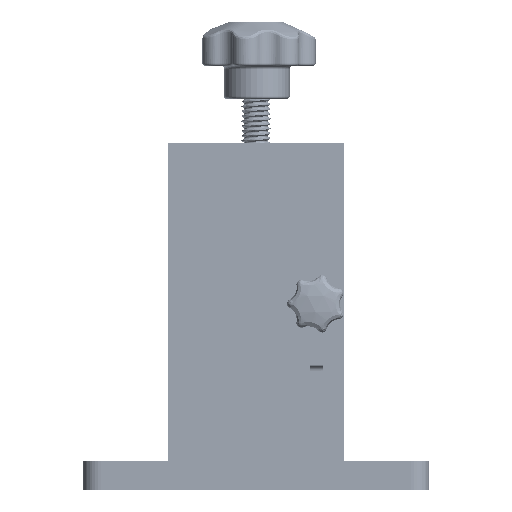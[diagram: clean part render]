
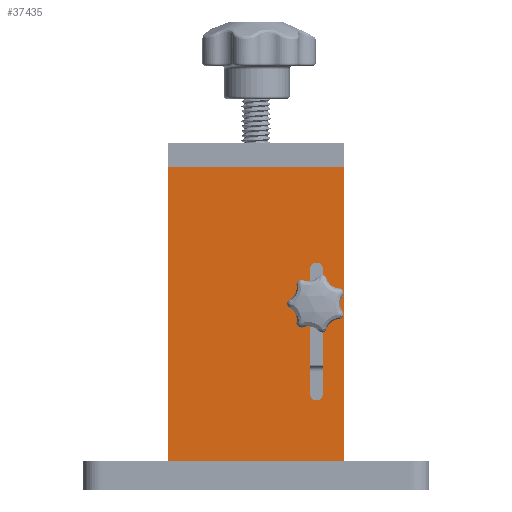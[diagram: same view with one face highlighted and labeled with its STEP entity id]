
A CAD part, left-side view. The second image highlights one B-rep face of the part: STEP entity #37435.
In plain terms, the highlighted planar face has unit normal (-1, 0, 0).
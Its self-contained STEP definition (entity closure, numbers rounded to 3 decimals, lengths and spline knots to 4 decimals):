
#2593=FACE_BOUND('',#12524,.T.);
#2995=PLANE('',#41197);
#4775=LINE('',#104297,#6861);
#4776=LINE('',#104308,#6862);
#4782=LINE('',#104326,#6868);
#4783=LINE('',#104328,#6869);
#4784=LINE('',#104330,#6870);
#4785=LINE('',#104331,#6871);
#6861=VECTOR('',#49859,0.3937);
#6862=VECTOR('',#49872,0.3937);
#6868=VECTOR('',#49892,0.3937);
#6869=VECTOR('',#49893,0.3937);
#6870=VECTOR('',#49894,0.3937);
#6871=VECTOR('',#49895,0.3937);
#10095=FACE_OUTER_BOUND('',#12523,.T.);
#12523=EDGE_LOOP('',(#33001,#33002,#33003,#33004));
#12524=EDGE_LOOP('',(#33005,#33006,#33007,#33008));
#14607=CIRCLE('',#41187,0.1104);
#14610=CIRCLE('',#41192,0.1104);
#17774=VERTEX_POINT('',#104290);
#17777=VERTEX_POINT('',#104295);
#17779=VERTEX_POINT('',#104300);
#17781=VERTEX_POINT('',#104306);
#17785=VERTEX_POINT('',#104324);
#17786=VERTEX_POINT('',#104325);
#17787=VERTEX_POINT('',#104327);
#17788=VERTEX_POINT('',#104329);
#22957=EDGE_CURVE('',#17777,#17774,#4775,.T.);
#22959=EDGE_CURVE('',#17779,#17777,#14607,.T.);
#22962=EDGE_CURVE('',#17781,#17779,#4776,.T.);
#22964=EDGE_CURVE('',#17774,#17781,#14610,.T.);
#22971=EDGE_CURVE('',#17785,#17786,#4782,.T.);
#22972=EDGE_CURVE('',#17787,#17785,#4783,.T.);
#22973=EDGE_CURVE('',#17788,#17787,#4784,.T.);
#22974=EDGE_CURVE('',#17786,#17788,#4785,.T.);
#33001=ORIENTED_EDGE('',*,*,#22971,.F.);
#33002=ORIENTED_EDGE('',*,*,#22972,.F.);
#33003=ORIENTED_EDGE('',*,*,#22973,.F.);
#33004=ORIENTED_EDGE('',*,*,#22974,.F.);
#33005=ORIENTED_EDGE('',*,*,#22957,.F.);
#33006=ORIENTED_EDGE('',*,*,#22959,.F.);
#33007=ORIENTED_EDGE('',*,*,#22962,.F.);
#33008=ORIENTED_EDGE('',*,*,#22964,.F.);
#37435=ADVANCED_FACE('',(#10095,#2593),#2995,.F.);
#41187=AXIS2_PLACEMENT_3D('',#104302,#49864,#49865);
#41192=AXIS2_PLACEMENT_3D('',#104311,#49876,#49877);
#41197=AXIS2_PLACEMENT_3D('',#104323,#49890,#49891);
#49859=DIRECTION('',(0.,0.,1.));
#49864=DIRECTION('center_axis',(-1.,0.,0.));
#49865=DIRECTION('ref_axis',(0.,0.,-1.));
#49872=DIRECTION('',(0.,0.,-1.));
#49876=DIRECTION('center_axis',(-1.,0.,0.));
#49877=DIRECTION('ref_axis',(0.,0.,1.));
#49890=DIRECTION('center_axis',(1.,0.,0.));
#49891=DIRECTION('ref_axis',(0.,1.,0.));
#49892=DIRECTION('',(0.,-1.,0.));
#49893=DIRECTION('',(0.,0.,1.));
#49894=DIRECTION('',(0.,1.,0.));
#49895=DIRECTION('',(0.,0.,-1.));
#104290=CARTESIAN_POINT('',(-1.125,-1.1404,3.2594));
#104295=CARTESIAN_POINT('',(-1.125,-1.1404,1.1344));
#104297=CARTESIAN_POINT('',(-1.125,-1.1404,0.5672));
#104300=CARTESIAN_POINT('',(-1.125,-0.9196,1.1344));
#104302=CARTESIAN_POINT('Origin',(-1.125,-1.03,1.1344));
#104306=CARTESIAN_POINT('',(-1.125,-0.9196,3.2594));
#104308=CARTESIAN_POINT('',(-1.125,-0.9196,1.6297));
#104311=CARTESIAN_POINT('Origin',(-1.125,-1.03,3.2594));
#104323=CARTESIAN_POINT('Origin',(-1.125,-1.5,0.));
#104324=CARTESIAN_POINT('',(-1.125,1.499,4.999));
#104325=CARTESIAN_POINT('',(-1.125,-1.499,4.999));
#104326=CARTESIAN_POINT('',(-1.125,-0.75,4.999));
#104327=CARTESIAN_POINT('',(-1.125,1.499,0.001));
#104328=CARTESIAN_POINT('',(-1.125,1.499,0.));
#104329=CARTESIAN_POINT('',(-1.125,-1.499,0.001));
#104330=CARTESIAN_POINT('',(-1.125,-0.75,0.001));
#104331=CARTESIAN_POINT('',(-1.125,-1.499,0.));
